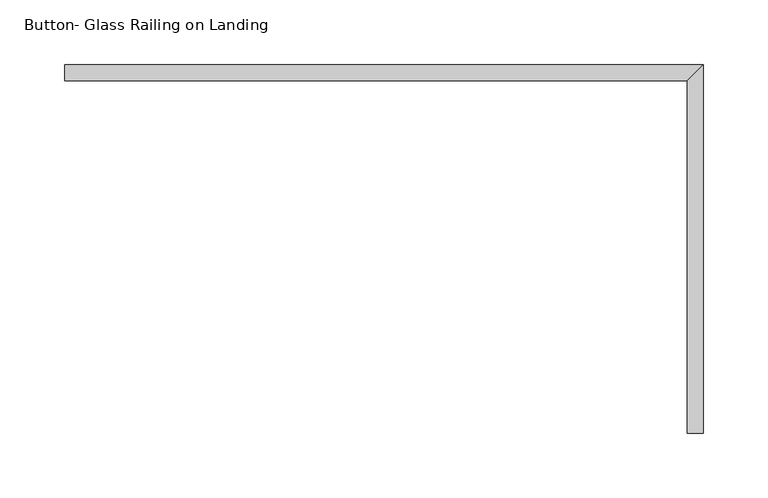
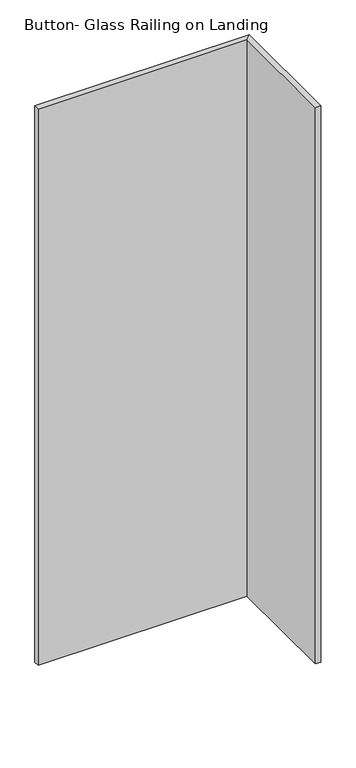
"""IFC4 building model written with IfcOpenShell, lengths in millimetres: railing geometry, Button- Glass Railing on Landing."""

from ifc_helpers import new_model, si_unit, origin, place, context, project, spatial, faceted_brep, source, transform, mapped, element, save


def button_glass_railing_on_landing_587f0cf4(model_context):
    return source(origin(), model_context, "Body", "Brep", [
        faceted_brep([(3612.809387, 4429.5994253, 1244.6), (3625.509387, 4429.5994253, 1244.6), (3625.509387, 4429.5994253, 2603.5), (3612.809387, 4429.5994253, 2603.5), (3612.809387, 4702.6494253, 1244.6), (3625.509387, 4715.3494253, 1244.6), (3625.509387, 4715.3494253, 2603.5), (3612.809387, 4702.6494253, 2603.5), (3130.209387, 4702.6494253, 1244.6), (3130.209387, 4702.6494253, 2603.5), (3130.209387, 4715.3494253, 2603.5), (3130.209387, 4715.3494253, 1244.6)], [[[0, 1, 2, 3]], [[1, 0, 4, 5]], [[2, 1, 5, 6]], [[3, 2, 6, 7]], [[0, 3, 7, 4]], [[8, 9, 10, 11]], [[5, 4, 8, 11]], [[6, 5, 11, 10]], [[7, 6, 10, 9]], [[4, 7, 9, 8]]]),
    ])


if __name__ == "__main__":
    model = new_model("IFC4")
    model_context = context("Model", 3, world=origin())
    ifc_project = project(units=[si_unit("LENGTHUNIT", "METRE", prefix="MILLI")], contexts=[model_context])
    site = spatial("IfcSite", under=ifc_project)
    building = spatial("IfcBuilding", under=site)
    placement = place(None, origin())
    button_glass_railing_on_landing_shape = button_glass_railing_on_landing_587f0cf4(model_context)
    element("IfcRailing", 1, ObjectType="Button- Glass Railing on Landing", at=placement, inside=building, context=model_context, shape_type="MappedRepresentation", body=[
        mapped(button_glass_railing_on_landing_shape, transform((0.0, 0.0, 0.0), x_axis=(1.0, 0.0, 0.0), y_axis=(0.0, 1.0, 0.0), z_axis=(0.0, 0.0, 1.0))),
    ])
    save(model, "model.ifc")
